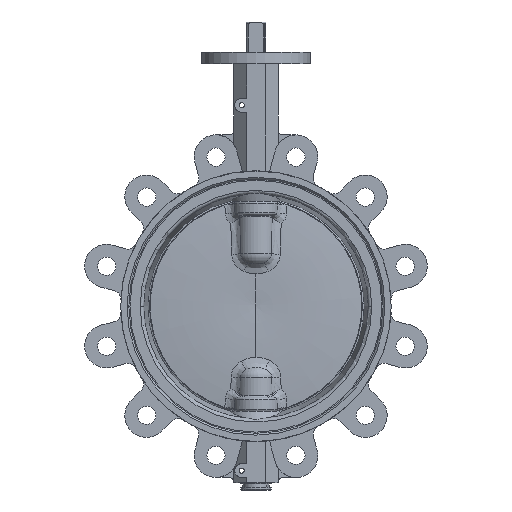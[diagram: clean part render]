
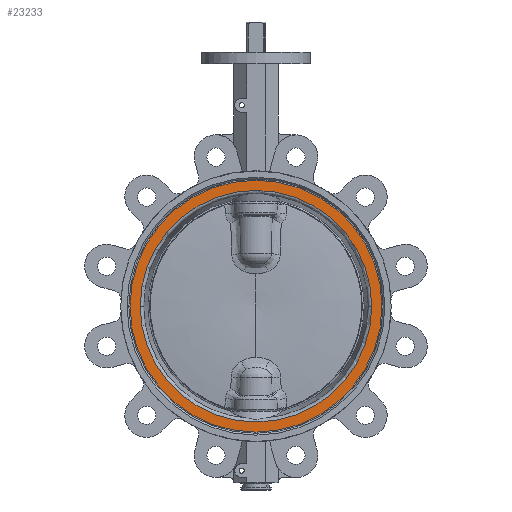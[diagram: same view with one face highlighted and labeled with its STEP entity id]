
A CAD part, left-side view. The second image highlights one B-rep face of the part: STEP entity #23233.
In plain terms, the highlighted planar face has unit normal (-1, 0, 0).
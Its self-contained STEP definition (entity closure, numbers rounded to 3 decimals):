
#19868 = TOROIDAL_SURFACE('',#19869,5.244,0.158);
#19869 = AXIS2_PLACEMENT_3D('',#19870,#19871,#19872);
#19870 = CARTESIAN_POINT('',(-1.977,-17.28,131.271));
#19871 = DIRECTION('',(-1.,0.,0.));
#19872 = DIRECTION('',(0.,-1.,0.));
#20869 = EDGE_CURVE('',#20870,#20872,#20874,.T.);
#20870 = VERTEX_POINT('',#20871);
#20871 = CARTESIAN_POINT('',(-2.135,-22.525,131.271));
#20872 = VERTEX_POINT('',#20873);
#20873 = CARTESIAN_POINT('',(-2.135,-12.036,131.271));
#20874 = SURFACE_CURVE('',#20875,(#20880,#20892),.PCURVE_S1.);
#20875 = CIRCLE('',#20876,5.244);
#20876 = AXIS2_PLACEMENT_3D('',#20877,#20878,#20879);
#20877 = CARTESIAN_POINT('',(-2.135,-17.28,131.271));
#20878 = DIRECTION('',(-1.,0.,0.));
#20879 = DIRECTION('',(0.,-1.,0.));
#20880 = PCURVE('',#20881,#20886);
#20881 = TOROIDAL_SURFACE('',#20882,5.244,0.158);
#20882 = AXIS2_PLACEMENT_3D('',#20883,#20884,#20885);
#20883 = CARTESIAN_POINT('',(-1.977,-17.28,131.271));
#20884 = DIRECTION('',(-1.,0.,0.));
#20885 = DIRECTION('',(0.,-1.,0.));
#20886 = DEFINITIONAL_REPRESENTATION('',(#20887),#20891);
#20887 = LINE('',#20888,#20889);
#20888 = CARTESIAN_POINT('',(0.,1.571));
#20889 = VECTOR('',#20890,1.);
#20890 = DIRECTION('',(1.,0.));
#20891 = ( GEOMETRIC_REPRESENTATION_CONTEXT(2) 
PARAMETRIC_REPRESENTATION_CONTEXT() REPRESENTATION_CONTEXT('2D SPACE',''
  ) );
#20892 = PCURVE('',#20893,#20898);
#20893 = PLANE('',#20894);
#20894 = AXIS2_PLACEMENT_3D('',#20895,#20896,#20897);
#20895 = CARTESIAN_POINT('',(-2.135,-17.28,136.976));
#20896 = DIRECTION('',(1.,0.,0.));
#20897 = DIRECTION('',(0.,1.,0.));
#20898 = DEFINITIONAL_REPRESENTATION('',(#20899),#20907);
#20899 = ( BOUNDED_CURVE() B_SPLINE_CURVE(2,(#20900,#20901,#20902,#20903
    ,#20904,#20905,#20906),.UNSPECIFIED.,.T.,.F.) 
B_SPLINE_CURVE_WITH_KNOTS((1,2,2,2,2,1),(-2.094,0.,
    2.094,4.189,6.283,8.378),
.UNSPECIFIED.) CURVE() GEOMETRIC_REPRESENTATION_ITEM() 
RATIONAL_B_SPLINE_CURVE((1.,0.5,1.,0.5,1.,0.5,1.)) REPRESENTATION_ITEM(
  '') );
#20900 = CARTESIAN_POINT('',(-5.244,-5.705));
#20901 = CARTESIAN_POINT('',(-5.244,3.378));
#20902 = CARTESIAN_POINT('',(2.622,-1.163));
#20903 = CARTESIAN_POINT('',(10.489,-5.705));
#20904 = CARTESIAN_POINT('',(2.622,-10.247));
#20905 = CARTESIAN_POINT('',(-5.244,-14.789));
#20906 = CARTESIAN_POINT('',(-5.244,-5.705));
#20907 = ( GEOMETRIC_REPRESENTATION_CONTEXT(2) 
PARAMETRIC_REPRESENTATION_CONTEXT() REPRESENTATION_CONTEXT('2D SPACE',''
  ) );
#21149 = CYLINDRICAL_SURFACE('',#21150,5.705);
#21150 = AXIS2_PLACEMENT_3D('',#21151,#21152,#21153);
#21151 = CARTESIAN_POINT('',(-4.488,-17.28,
    131.271));
#21152 = DIRECTION('',(-1.,0.,0.));
#21153 = DIRECTION('',(0.,-1.,0.));
#21178 = VERTEX_POINT('',#21179);
#21179 = CARTESIAN_POINT('',(-2.135,-11.575,131.271));
#21193 = CYLINDRICAL_SURFACE('',#21194,5.705);
#21194 = AXIS2_PLACEMENT_3D('',#21195,#21196,#21197);
#21195 = CARTESIAN_POINT('',(-4.488,-17.28,
    131.271));
#21196 = DIRECTION('',(-1.,0.,0.));
#21197 = DIRECTION('',(0.,-1.,0.));
#21205 = EDGE_CURVE('',#21206,#21178,#21208,.T.);
#21206 = VERTEX_POINT('',#21207);
#21207 = CARTESIAN_POINT('',(-2.135,-22.985,131.271));
#21208 = SURFACE_CURVE('',#21209,(#21214,#21221),.PCURVE_S1.);
#21209 = CIRCLE('',#21210,5.705);
#21210 = AXIS2_PLACEMENT_3D('',#21211,#21212,#21213);
#21211 = CARTESIAN_POINT('',(-2.135,-17.28,131.271));
#21212 = DIRECTION('',(-1.,0.,0.));
#21213 = DIRECTION('',(0.,-1.,0.));
#21214 = PCURVE('',#21149,#21215);
#21215 = DEFINITIONAL_REPRESENTATION('',(#21216),#21220);
#21216 = LINE('',#21217,#21218);
#21217 = CARTESIAN_POINT('',(0.,-2.353));
#21218 = VECTOR('',#21219,1.);
#21219 = DIRECTION('',(1.,0.));
#21220 = ( GEOMETRIC_REPRESENTATION_CONTEXT(2) 
PARAMETRIC_REPRESENTATION_CONTEXT() REPRESENTATION_CONTEXT('2D SPACE',''
  ) );
#21221 = PCURVE('',#20893,#21222);
#21222 = DEFINITIONAL_REPRESENTATION('',(#21223),#21231);
#21223 = ( BOUNDED_CURVE() B_SPLINE_CURVE(2,(#21224,#21225,#21226,#21227
    ,#21228,#21229,#21230),.UNSPECIFIED.,.T.,.F.) 
B_SPLINE_CURVE_WITH_KNOTS((1,2,2,2,2,1),(-2.094,0.,
    2.094,4.189,6.283,8.378),
.UNSPECIFIED.) CURVE() GEOMETRIC_REPRESENTATION_ITEM() 
RATIONAL_B_SPLINE_CURVE((1.,0.5,1.,0.5,1.,0.5,1.)) REPRESENTATION_ITEM(
  '') );
#21224 = CARTESIAN_POINT('',(-5.705,-5.705));
#21225 = CARTESIAN_POINT('',(-5.705,4.176));
#21226 = CARTESIAN_POINT('',(2.853,-0.764));
#21227 = CARTESIAN_POINT('',(11.41,-5.705));
#21228 = CARTESIAN_POINT('',(2.853,-10.646));
#21229 = CARTESIAN_POINT('',(-5.705,-15.587));
#21230 = CARTESIAN_POINT('',(-5.705,-5.705));
#21231 = ( GEOMETRIC_REPRESENTATION_CONTEXT(2) 
PARAMETRIC_REPRESENTATION_CONTEXT() REPRESENTATION_CONTEXT('2D SPACE',''
  ) );
#23208 = EDGE_CURVE('',#21178,#21206,#23209,.T.);
#23209 = SURFACE_CURVE('',#23210,(#23215,#23222),.PCURVE_S1.);
#23210 = CIRCLE('',#23211,5.705);
#23211 = AXIS2_PLACEMENT_3D('',#23212,#23213,#23214);
#23212 = CARTESIAN_POINT('',(-2.135,-17.28,131.271));
#23213 = DIRECTION('',(-1.,0.,0.));
#23214 = DIRECTION('',(0.,-1.,0.));
#23215 = PCURVE('',#21193,#23216);
#23216 = DEFINITIONAL_REPRESENTATION('',(#23217),#23221);
#23217 = LINE('',#23218,#23219);
#23218 = CARTESIAN_POINT('',(0.,-2.353));
#23219 = VECTOR('',#23220,1.);
#23220 = DIRECTION('',(1.,0.));
#23221 = ( GEOMETRIC_REPRESENTATION_CONTEXT(2) 
PARAMETRIC_REPRESENTATION_CONTEXT() REPRESENTATION_CONTEXT('2D SPACE',''
  ) );
#23222 = PCURVE('',#20893,#23223);
#23223 = DEFINITIONAL_REPRESENTATION('',(#23224),#23232);
#23224 = ( BOUNDED_CURVE() B_SPLINE_CURVE(2,(#23225,#23226,#23227,#23228
    ,#23229,#23230,#23231),.UNSPECIFIED.,.T.,.F.) 
B_SPLINE_CURVE_WITH_KNOTS((1,2,2,2,2,1),(-2.094,0.,
    2.094,4.189,6.283,8.378),
.UNSPECIFIED.) CURVE() GEOMETRIC_REPRESENTATION_ITEM() 
RATIONAL_B_SPLINE_CURVE((1.,0.5,1.,0.5,1.,0.5,1.)) REPRESENTATION_ITEM(
  '') );
#23225 = CARTESIAN_POINT('',(-5.705,-5.705));
#23226 = CARTESIAN_POINT('',(-5.705,4.176));
#23227 = CARTESIAN_POINT('',(2.853,-0.764));
#23228 = CARTESIAN_POINT('',(11.41,-5.705));
#23229 = CARTESIAN_POINT('',(2.853,-10.646));
#23230 = CARTESIAN_POINT('',(-5.705,-15.587));
#23231 = CARTESIAN_POINT('',(-5.705,-5.705));
#23232 = ( GEOMETRIC_REPRESENTATION_CONTEXT(2) 
PARAMETRIC_REPRESENTATION_CONTEXT() REPRESENTATION_CONTEXT('2D SPACE',''
  ) );
#23233 = ADVANCED_FACE('',(#23234,#23263),#20893,.F.);
#23234 = FACE_BOUND('',#23235,.T.);
#23235 = EDGE_LOOP('',(#23236,#23237));
#23236 = ORIENTED_EDGE('',*,*,#20869,.F.);
#23237 = ORIENTED_EDGE('',*,*,#23238,.F.);
#23238 = EDGE_CURVE('',#20872,#20870,#23239,.T.);
#23239 = SURFACE_CURVE('',#23240,(#23245,#23256),.PCURVE_S1.);
#23240 = CIRCLE('',#23241,5.244);
#23241 = AXIS2_PLACEMENT_3D('',#23242,#23243,#23244);
#23242 = CARTESIAN_POINT('',(-2.135,-17.28,131.271));
#23243 = DIRECTION('',(-1.,0.,0.));
#23244 = DIRECTION('',(0.,-1.,0.));
#23245 = PCURVE('',#20893,#23246);
#23246 = DEFINITIONAL_REPRESENTATION('',(#23247),#23255);
#23247 = ( BOUNDED_CURVE() B_SPLINE_CURVE(2,(#23248,#23249,#23250,#23251
    ,#23252,#23253,#23254),.UNSPECIFIED.,.T.,.F.) 
B_SPLINE_CURVE_WITH_KNOTS((1,2,2,2,2,1),(-2.094,0.,
    2.094,4.189,6.283,8.378),
.UNSPECIFIED.) CURVE() GEOMETRIC_REPRESENTATION_ITEM() 
RATIONAL_B_SPLINE_CURVE((1.,0.5,1.,0.5,1.,0.5,1.)) REPRESENTATION_ITEM(
  '') );
#23248 = CARTESIAN_POINT('',(-5.244,-5.705));
#23249 = CARTESIAN_POINT('',(-5.244,3.378));
#23250 = CARTESIAN_POINT('',(2.622,-1.163));
#23251 = CARTESIAN_POINT('',(10.489,-5.705));
#23252 = CARTESIAN_POINT('',(2.622,-10.247));
#23253 = CARTESIAN_POINT('',(-5.244,-14.789));
#23254 = CARTESIAN_POINT('',(-5.244,-5.705));
#23255 = ( GEOMETRIC_REPRESENTATION_CONTEXT(2) 
PARAMETRIC_REPRESENTATION_CONTEXT() REPRESENTATION_CONTEXT('2D SPACE',''
  ) );
#23256 = PCURVE('',#19868,#23257);
#23257 = DEFINITIONAL_REPRESENTATION('',(#23258),#23262);
#23258 = LINE('',#23259,#23260);
#23259 = CARTESIAN_POINT('',(0.,1.571));
#23260 = VECTOR('',#23261,1.);
#23261 = DIRECTION('',(1.,0.));
#23262 = ( GEOMETRIC_REPRESENTATION_CONTEXT(2) 
PARAMETRIC_REPRESENTATION_CONTEXT() REPRESENTATION_CONTEXT('2D SPACE',''
  ) );
#23263 = FACE_BOUND('',#23264,.T.);
#23264 = EDGE_LOOP('',(#23265,#23266));
#23265 = ORIENTED_EDGE('',*,*,#21205,.T.);
#23266 = ORIENTED_EDGE('',*,*,#23208,.T.);
